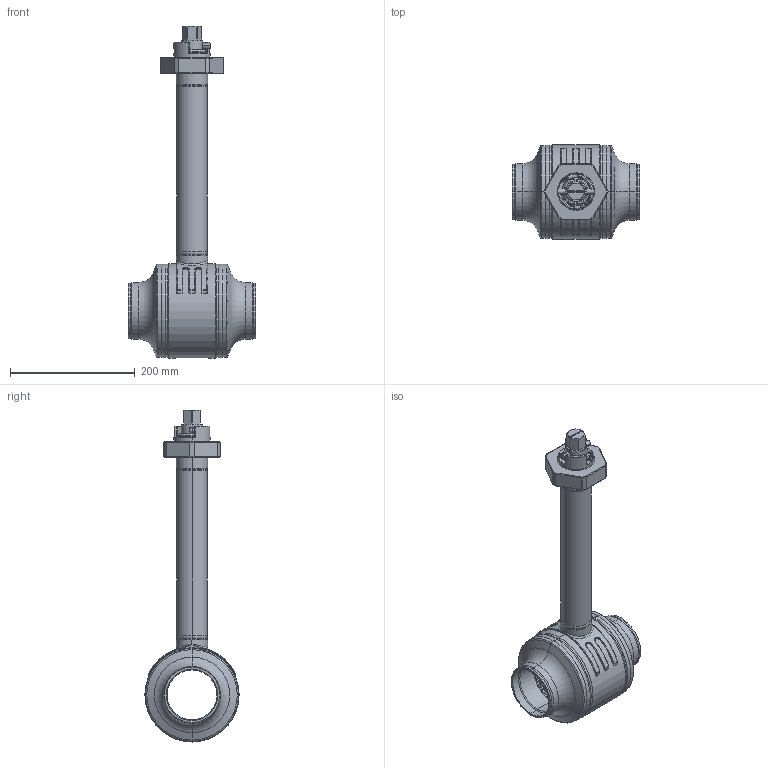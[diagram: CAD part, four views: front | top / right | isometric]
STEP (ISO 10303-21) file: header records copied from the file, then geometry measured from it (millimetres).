
FILE_DESCRIPTION((''),'2;1');
FILE_NAME('WSK21642_MONOLITE_DN8_SW0001','2023-04-04T14:38:17',('jeitlers'),('KLINGER'),'CREO PARAMETRIC BY PTC INC, 2020184','CREO PARAMETRIC BY PTC INC, 2020184','');
FILE_SCHEMA(('AUTOMOTIVE_DESIGN { 1 0 10303 214 1 1 1 1 }'));
Length unit declared in the file: millimetre
Products named in the file (1): WSK21642_MONOLITE_DN8_SW0001
Bounding box: 205 x 151 x 532.25 mm (x, y, z)
Volume: 1758264 mm3; surface area: 503041.4 mm2
Topology: 2 solids, 2 shells, 827 faces, 1986 edges, 1196 vertices
Faces by surface type: plane 311, cylinder 214, torus 158, cone 68, sphere 40, bspline 36
Entity records: 34191 total; most frequent: CARTESIAN_POINT 13919, DIRECTION 4324, ORIENTED_EDGE 3948, EDGE_CURVE 1974, AXIS2_PLACEMENT_3D 1665, VERTEX_POINT 1196, VECTOR 991, LINE 991
